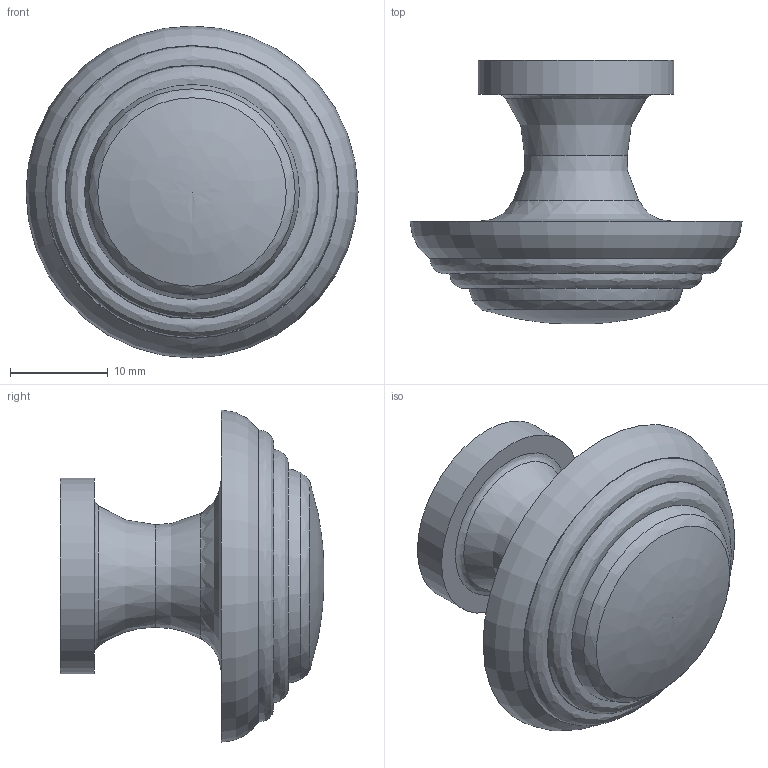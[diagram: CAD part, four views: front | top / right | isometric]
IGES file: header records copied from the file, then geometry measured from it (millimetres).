
Start section: Data from Parasolid IGES Translator 15.0.47, Copyright(c) 2006 Siemens P LM Software. All Rights Reserved.
Global section: file name: 9113420.igs; native system:  By UGS Corp.; preprocessor: XPlus GENERIC/IGES 3.0; author: Noname; organization: Noname; date: 20140122.101547; units: millimetre
Bounding box: 34 x 27 x 34 mm (x, y, z)
Surface area: 3438.6 mm2 (no closed solid volume)
Topology: 0 solids, 0 shells, 18 faces, 59 edges, 43 vertices
Faces by surface type: revolution 12, extrusion 6
